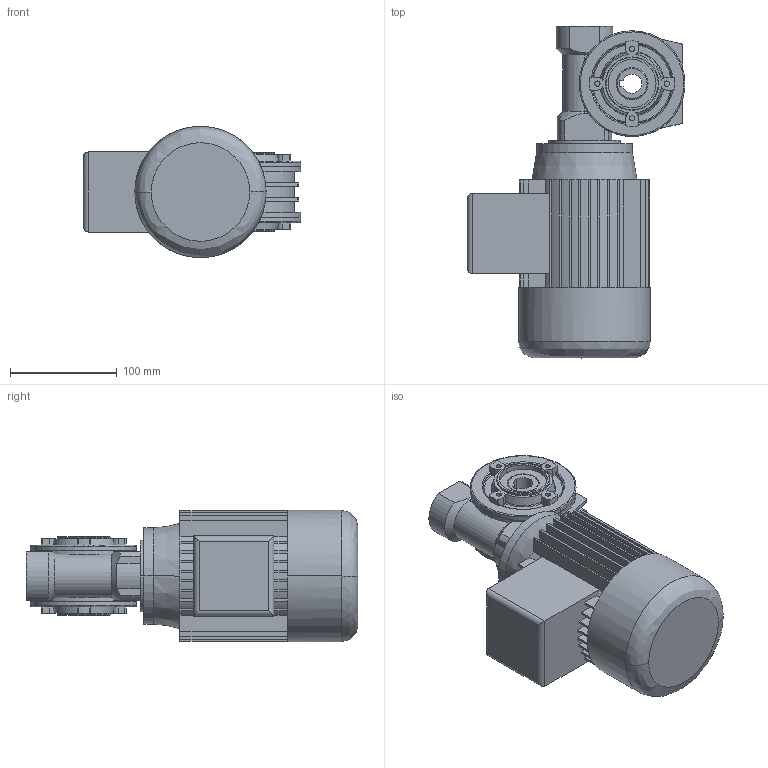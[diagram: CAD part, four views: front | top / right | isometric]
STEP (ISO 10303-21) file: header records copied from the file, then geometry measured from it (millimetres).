
FILE_DESCRIPTION (( 'STEP AP203' ), '1' );
FILE_NAME ('NASTRO_PISTE_PARALLELE.step', '2026-04-21T12:49:26', ( 'Utente Windows' ), ( '' ), 'SwSTEP 2.0', 'SolidWorks 2024', '' );
FILE_SCHEMA (( 'CONFIG_CONTROL_DESIGN' ));
Length unit declared in the file: millimetre
Products named in the file (2): NASTRO_PISTE_PARALLELE; CH04P_DX
Assembly tree (1 placements, depth 2):
  NASTRO_PISTE_PARALLELE
    CH04P_DX
Bounding box: 204.1 x 311 x 123 mm (x, y, z)
Volume: 2725613.1 mm3; surface area: 240498.9 mm2
Topology: 1 solids, 7 shells, 544 faces, 1356 edges, 855 vertices
Faces by surface type: plane 288, cylinder 186, cone 40, bspline 30
Entity records: 18317 total; most frequent: CARTESIAN_POINT 5157, DIRECTION 2743, ORIENTED_EDGE 2712, EDGE_CURVE 1356, AXIS2_PLACEMENT_3D 1007, VERTEX_POINT 855, LINE 729, VECTOR 729
